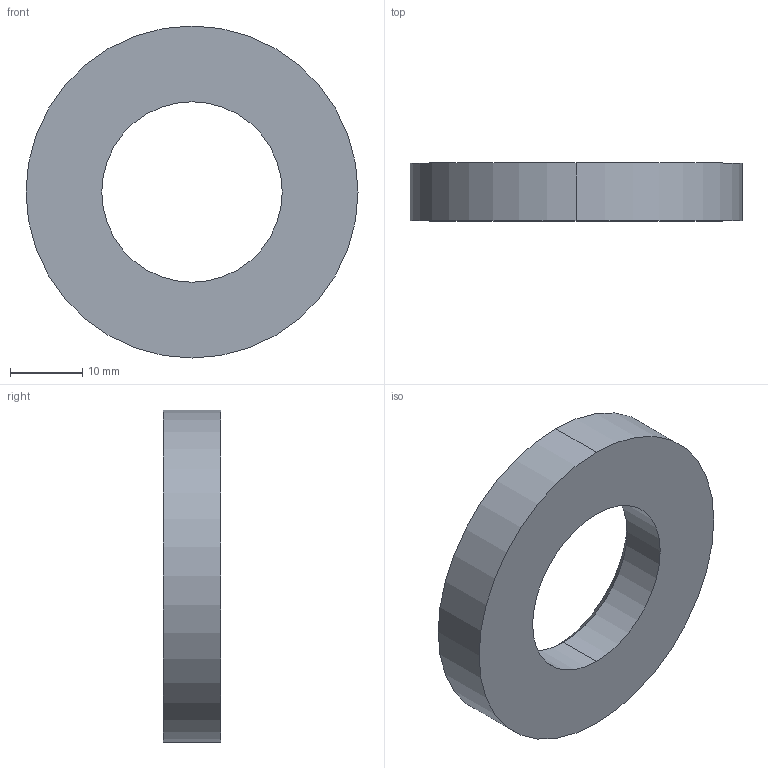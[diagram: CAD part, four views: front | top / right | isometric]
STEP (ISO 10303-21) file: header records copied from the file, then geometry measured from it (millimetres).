
FILE_DESCRIPTION (( 'STEP AP214' ), '1' );
FILE_NAME ('SM71-M24 U-Scheibe.STEP', '2023-09-26T09:14:15', ( '' ), ( '' ), 'SwSTEP 2.0', 'SolidWorks 2019', '' );
FILE_SCHEMA (( 'AUTOMOTIVE_DESIGN' ));
Length unit declared in the file: millimetre
Products named in the file (2): SM71-M24 U-Scheibe
Bounding box: 46 x 8 x 46 mm (x, y, z)
Volume: 9276.3 mm3; surface area: 4060.4 mm2
Topology: 1 solids, 1 shells, 8 faces, 16 edges, 10 vertices
Faces by surface type: cylinder 4, cone 2, plane 2
Entity records: 267 total; most frequent: DIRECTION 46, CARTESIAN_POINT 36, ORIENTED_EDGE 32, AXIS2_PLACEMENT_3D 20, EDGE_CURVE 16, CIRCLE 10, VERTEX_POINT 10, EDGE_LOOP 10
